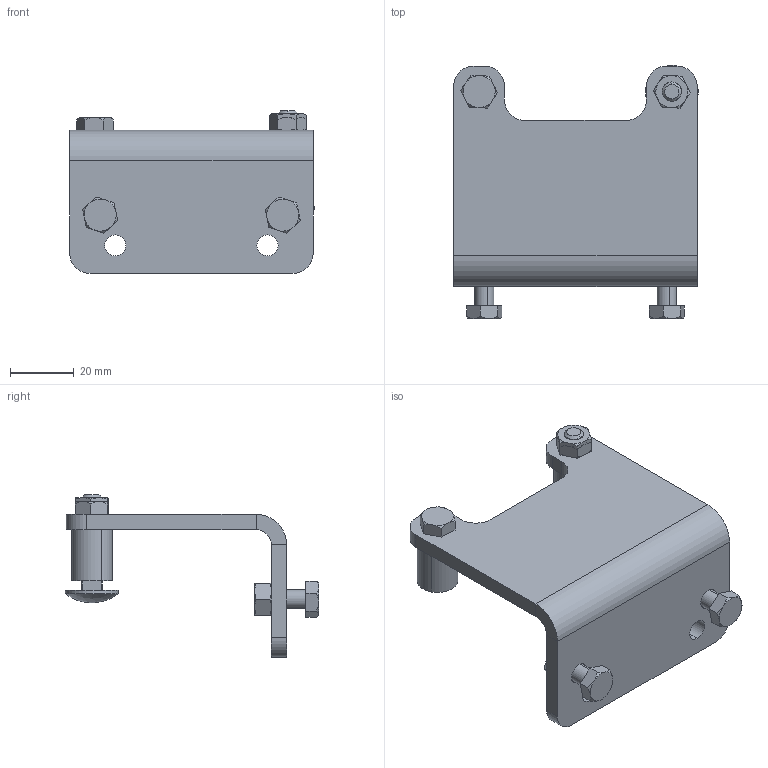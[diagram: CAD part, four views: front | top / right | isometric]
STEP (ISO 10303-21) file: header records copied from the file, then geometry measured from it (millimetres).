
FILE_DESCRIPTION((''),'2;1');
FILE_NAME('531150_ASM','2023-03-02T',('jenni.wallner'),(''),'PRO/ENGINEER BY PARAMETRIC TECHNOLOGY CORPORATION, 2012420','PRO/ENGINEER BY PARAMETRIC TECHNOLOGY CORPORATION, 2012420','');
FILE_SCHEMA(('CONFIG_CONTROL_DESIGN'));
Length unit declared in the file: inch
Products named in the file (8): 9606XXM_960616MSS; 990601MSS; 531092; 900630MSS; 9606XXM_960612MSS; 531149; ASM0001_ASM; 531150_ASM
Assembly tree (12 placements, depth 3):
  531150_ASM
    ASM0001_ASM
      9606XXM_960616MSS  x2
      990601MSS  x3
      531092  x2
      900630MSS
      9606XXM_960612MSS  x2
      531149
Bounding box: 76.54 x 79.3 x 50.95 mm (x, y, z)
Volume: 41986.9 mm3; surface area: 23383 mm2
Topology: 11 solids, 11 shells, 239 faces, 559 edges, 345 vertices
Faces by surface type: plane 92, cone 73, cylinder 64, sphere 6, bspline 4
Entity records: 4726 total; most frequent: CARTESIAN_POINT 1082, DIRECTION 779, ORIENTED_EDGE 686, EDGE_CURVE 343, AXIS2_PLACEMENT_3D 315, VERTEX_POINT 213, EDGE_LOOP 166, VECTOR 149
